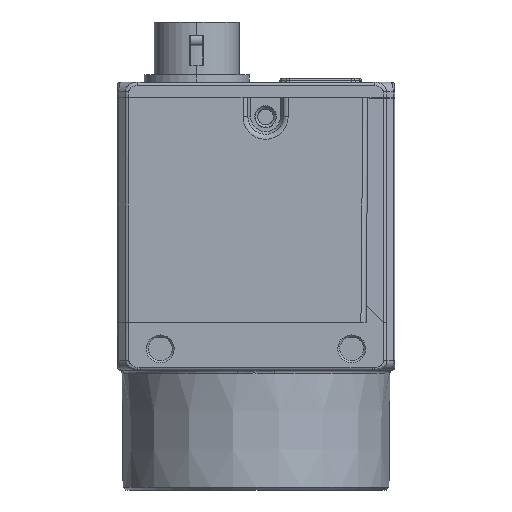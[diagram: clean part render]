
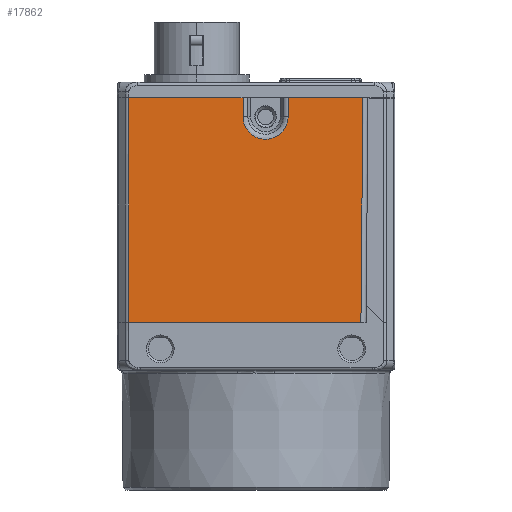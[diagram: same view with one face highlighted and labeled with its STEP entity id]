
A CAD part, left-side view. The second image highlights one B-rep face of the part: STEP entity #17862.
In plain terms, the highlighted planar face has unit normal (-1, 0, 0).
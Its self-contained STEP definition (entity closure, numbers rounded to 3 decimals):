
#794=CARTESIAN_POINT('',(-14.5,-1.,21.));
#795=DIRECTION('',(-1.,0.,0.));
#796=DIRECTION('',(0.,1.,0.));
#797=AXIS2_PLACEMENT_3D('',#794,#795,#796);
#799=CARTESIAN_POINT('',(-14.5,-1.,21.));
#800=DIRECTION('',(-1.,0.,0.));
#801=DIRECTION('',(0.,0.992,-0.122));
#802=AXIS2_PLACEMENT_3D('',#799,#800,#801);
#804=DIRECTION('',(0.,0.009,-1.));
#805=VECTOR('',#804,23.501);
#806=CARTESIAN_POINT('',(-14.5,-11.17,23.));
#807=LINE('',#806,#805);
#878=DIRECTION('',(0.,-1.,0.));
#879=VECTOR('',#878,24.258);
#880=CARTESIAN_POINT('',(-14.5,13.293,
-0.5));
#881=LINE('',#880,#879);
#1482=DIRECTION('',(0.,0.,-1.));
#1483=VECTOR('',#1482,2.);
#1484=CARTESIAN_POINT('',(-14.5,-3.358,
23.));
#1485=LINE('',#1484,#1483);
#1500=DIRECTION('',(0.,0.,1.));
#1501=VECTOR('',#1500,2.);
#1502=CARTESIAN_POINT('',(-14.5,1.358,21.));
#1503=LINE('',#1502,#1501);
#1530=DIRECTION('',(0.,1.,0.));
#1531=VECTOR('',#1530,11.934);
#1532=CARTESIAN_POINT('',(-14.5,1.358,23.));
#1533=LINE('',#1532,#1531);
#1597=DIRECTION('',(0.,1.,0.));
#1598=VECTOR('',#1597,7.812);
#1599=CARTESIAN_POINT('',(-14.5,-11.17,
23.));
#1600=LINE('',#1599,#1598);
#1616=DIRECTION('',(0.,0.,-1.));
#1617=VECTOR('',#1616,23.5);
#1618=CARTESIAN_POINT('',(-14.5,13.293,23.));
#1619=LINE('',#1618,#1617);
#13715=CARTESIAN_POINT('',(-14.5,-10.965,
-0.5));
#13717=VERTEX_POINT('',#13715);
#13720=CARTESIAN_POINT('',(-14.5,1.358,
23.));
#13721=CARTESIAN_POINT('',(-14.5,13.293,
23.));
#13722=VERTEX_POINT('',#13720);
#13723=VERTEX_POINT('',#13721);
#13724=CARTESIAN_POINT('',(-14.5,1.358,21.));
#13725=CARTESIAN_POINT('',(-14.5,1.341,20.711));
#13726=VERTEX_POINT('',#13724);
#13727=VERTEX_POINT('',#13725);
#13728=CARTESIAN_POINT('',(-14.5,-3.358,21.));
#13729=VERTEX_POINT('',#13728);
#13730=CARTESIAN_POINT('',(-14.5,-11.17,
23.));
#13731=CARTESIAN_POINT('',(-14.5,-3.358,
23.));
#13732=VERTEX_POINT('',#13730);
#13733=VERTEX_POINT('',#13731);
#13743=CARTESIAN_POINT('',(-14.5,13.293,
-0.5));
#13744=VERTEX_POINT('',#13743);
#17838=CARTESIAN_POINT('',(-14.5,1.061,11.25));
#17839=DIRECTION('',(1.,0.,0.));
#17840=DIRECTION('',(0.,-1.,0.));
#17841=AXIS2_PLACEMENT_3D('',#17838,#17839,#17840);
#17842=PLANE('',#17841);
#17844=ORIENTED_EDGE('',*,*,#17843,.F.);
#17846=ORIENTED_EDGE('',*,*,#17845,.F.);
#17848=ORIENTED_EDGE('',*,*,#17847,.F.);
#17850=ORIENTED_EDGE('',*,*,#17849,.F.);
#17852=ORIENTED_EDGE('',*,*,#17851,.T.);
#17854=ORIENTED_EDGE('',*,*,#17853,.T.);
#17856=ORIENTED_EDGE('',*,*,#17855,.F.);
#17858=ORIENTED_EDGE('',*,*,#17857,.F.);
#17859=ORIENTED_EDGE('',*,*,#17829,.T.);
#17860=EDGE_LOOP('',(#17844,#17846,#17848,#17850,#17852,#17854,#17856,#17858,
#17859));
#17861=FACE_OUTER_BOUND('',#17860,.F.);
#17862=ADVANCED_FACE('',(#17861),#17842,.F.);
#798=CIRCLE('',#797,2.358);
#803=CIRCLE('',#802,2.358);
#17829=EDGE_CURVE('',#13732,#13717,#807,.T.);
#17843=EDGE_CURVE('',#13744,#13717,#881,.T.);
#17845=EDGE_CURVE('',#13723,#13744,#1619,.T.);
#17847=EDGE_CURVE('',#13722,#13723,#1533,.T.);
#17849=EDGE_CURVE('',#13726,#13722,#1503,.T.);
#17851=EDGE_CURVE('',#13726,#13727,#798,.T.);
#17853=EDGE_CURVE('',#13727,#13729,#803,.T.);
#17855=EDGE_CURVE('',#13733,#13729,#1485,.T.);
#17857=EDGE_CURVE('',#13732,#13733,#1600,.T.);
